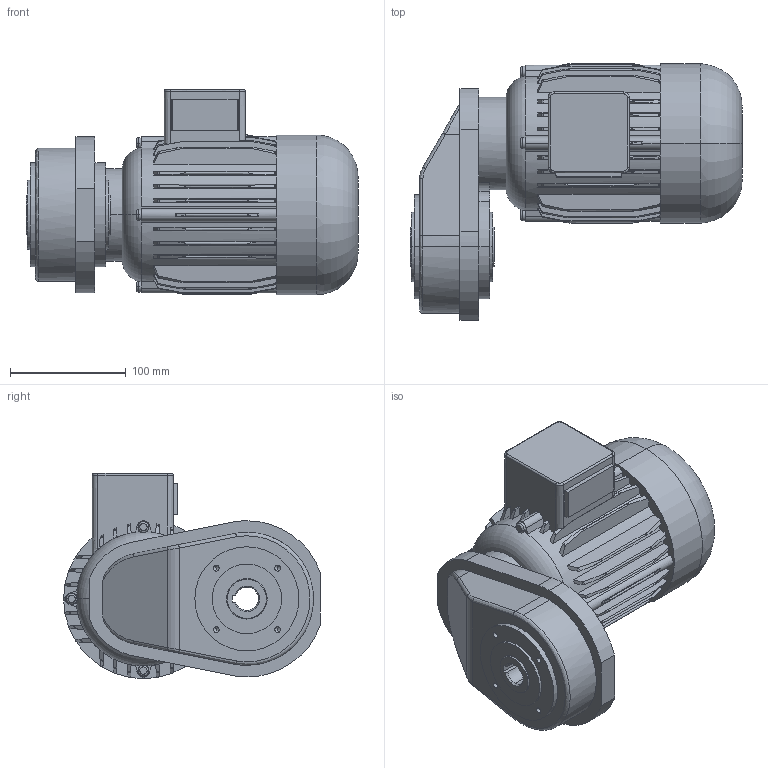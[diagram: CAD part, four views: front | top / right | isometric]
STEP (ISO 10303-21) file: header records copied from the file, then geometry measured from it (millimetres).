
FILE_DESCRIPTION(('OneSpaceDesigner STEP Export'),'2;1');
FILE_NAME('ODG7_FB30.stp','2010-04-13T12:55:44',(''),(''),'OneSpace Designer STEP processor (Jan. 2003) for AP214(CD)(Solid Model)','OneSpace Designer 12.01D 09-Jul-2004 (C) CoCreate Software GmbH','');
FILE_SCHEMA(('AUTOMOTIVE_DESIGN_CC2 {1 2 10303 214 -1 1 5 1}'));
Products named in the file (2): ODG7_FB30
Assembly tree (1 placements, depth 2):
  ODG7_FB30
    ODG7_FB30
Bounding box: 287 x 222.01 x 177.52 mm (x, y, z)
Volume: 3768567.7 mm3; surface area: 234711.1 mm2
Topology: 1 solids, 1 shells, 476 faces, 1349 edges, 886 vertices
Faces by surface type: cylinder 146, plane 131, cone 122, torus 52, bspline 19, extrusion 6
Entity records: 35967 total; most frequent: CARTESIAN_POINT 25699, ORIENTED_EDGE 2666, DIRECTION 1428, EDGE_CURVE 1333, VERTEX_POINT 886, AXIS2_PLACEMENT_3D 505, EDGE_LOOP 505, FACE_OUTER_BOUND 476
